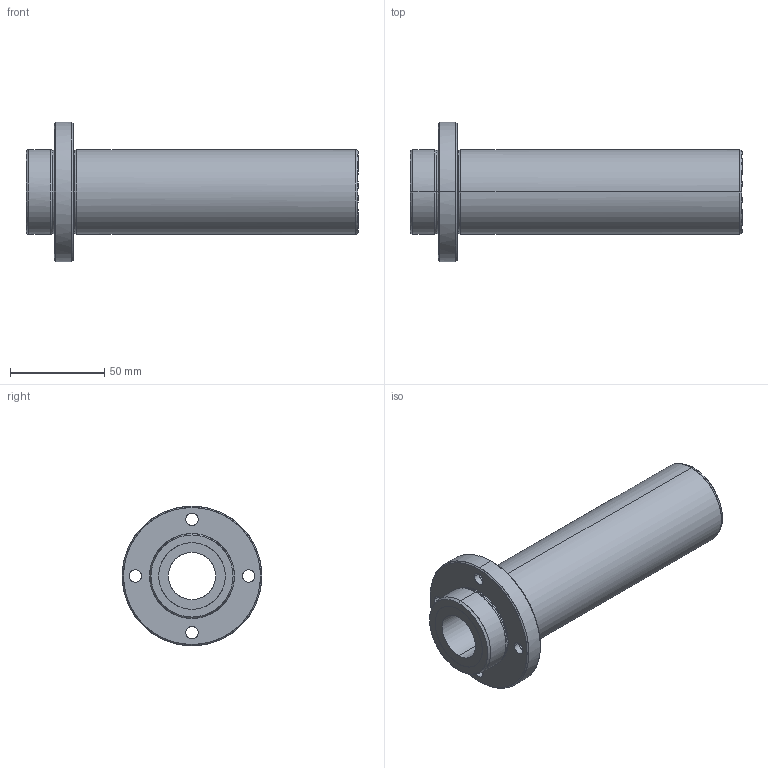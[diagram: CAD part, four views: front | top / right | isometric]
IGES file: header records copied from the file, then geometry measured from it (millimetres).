
Global section: file name: No Iges File Name specified; native system: AutoDesk Inventor R10; preprocessor: AutoDesk Inventor Iges Exporter R10; author: No Author specified; organization: No Organization specified; date: 20101216.172041; units: millimetre
Bounding box: 176 x 74 x 74 mm (x, y, z)
Surface area: 47936.7 mm2 (no closed solid volume)
Topology: 0 solids, 0 shells, 54 faces, 376 edges, 376 vertices
Faces by surface type: bspline 54
